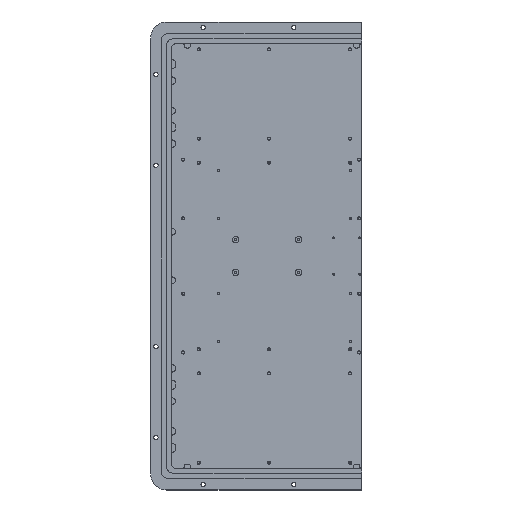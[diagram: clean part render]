
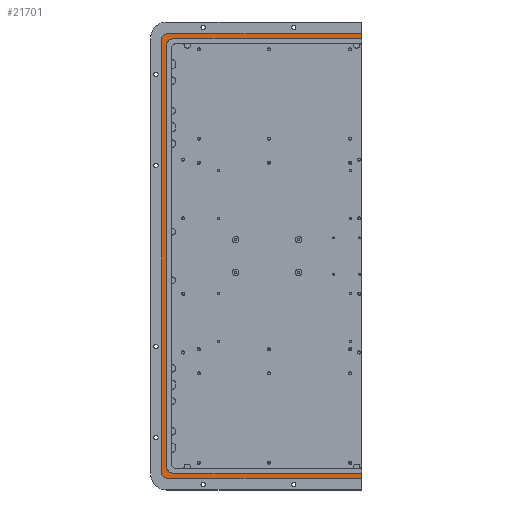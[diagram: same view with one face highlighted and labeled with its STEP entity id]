
A CAD part, top view. The second image highlights one B-rep face of the part: STEP entity #21701.
In plain terms, the highlighted planar face has unit normal (0, 0, 1).
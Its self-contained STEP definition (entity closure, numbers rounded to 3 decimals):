
#379 = DIRECTION ( 'NONE',  ( -1., 0., 0. ) ) ;
#741 = ORIENTED_EDGE ( 'NONE', *, *, #10351, .T. ) ;
#1018 = DIRECTION ( 'NONE',  ( 0., 0., -1. ) ) ;
#1154 = VERTEX_POINT ( 'NONE', #29956 ) ;
#1155 = VERTEX_POINT ( 'NONE', #35698 ) ;
#1367 = DIRECTION ( 'NONE',  ( -1., 0., 0. ) ) ;
#1409 = VERTEX_POINT ( 'NONE', #37080 ) ;
#2222 = ORIENTED_EDGE ( 'NONE', *, *, #21895, .T. ) ;
#3748 = CARTESIAN_POINT ( 'NONE',  ( -110.572, 83.712, -0.2 ) ) ;
#4398 = AXIS2_PLACEMENT_3D ( 'NONE', #23808, #6645, #26729 ) ;
#5046 = LINE ( 'NONE', #12402, #12690 ) ;
#5271 = CARTESIAN_POINT ( 'NONE',  ( -106.272, 79.412, -0.2 ) ) ;
#5381 = CARTESIAN_POINT ( 'NONE',  ( 54.728, -278.888, -0.2 ) ) ;
#5759 = ORIENTED_EDGE ( 'NONE', *, *, #26612, .T. ) ;
#5831 = EDGE_CURVE ( 'NONE', #1155, #31984, #14603, .T. ) ;
#6056 = VECTOR ( 'NONE', #11158, 1000. ) ;
#6090 = DIRECTION ( 'NONE',  ( 0., 0., 1. ) ) ;
#6346 = VECTOR ( 'NONE', #18547, 1000. ) ;
#6480 = CARTESIAN_POINT ( 'NONE',  ( -101.272, 84.412, -0.2 ) ) ;
#6617 = CARTESIAN_POINT ( 'NONE',  ( 54.728, -274.588, -0.2 ) ) ;
#6645 = DIRECTION ( 'NONE',  ( 0., 0., -1. ) ) ;
#6687 = LINE ( 'NONE', #9642, #7618 ) ;
#7330 = DIRECTION ( 'NONE',  ( 0., -1., 0. ) ) ;
#7618 = VECTOR ( 'NONE', #32587, 1000. ) ;
#7696 = CARTESIAN_POINT ( 'NONE',  ( 0., 0., -0.2 ) ) ;
#7998 = VECTOR ( 'NONE', #379, 1000. ) ;
#8832 = CARTESIAN_POINT ( 'NONE',  ( -105.572, -278.888, -0.2 ) ) ;
#9642 = CARTESIAN_POINT ( 'NONE',  ( -106.272, 84.412, -0.2 ) ) ;
#9736 = AXIS2_PLACEMENT_3D ( 'NONE', #11542, #31628, #14445 ) ;
#10351 = EDGE_CURVE ( 'NONE', #21805, #10750, #28222, .T. ) ;
#10458 = DIRECTION ( 'NONE',  ( 0., 0., 1. ) ) ;
#10478 = CIRCLE ( 'NONE', #9736, 5. ) ;
#10572 = PLANE ( 'NONE',  #18129 ) ;
#10750 = VERTEX_POINT ( 'NONE', #6480 ) ;
#10811 = VECTOR ( 'NONE', #7330, 1000. ) ;
#11158 = DIRECTION ( 'NONE',  ( 0., 1., 0. ) ) ;
#11542 = CARTESIAN_POINT ( 'NONE',  ( -105.572, 83.712, -0.2 ) ) ;
#11744 = ORIENTED_EDGE ( 'NONE', *, *, #22091, .T. ) ;
#12034 = AXIS2_PLACEMENT_3D ( 'NONE', #18215, #1018, #21080 ) ;
#12363 = CARTESIAN_POINT ( 'NONE',  ( -101.272, -274.588, -0.2 ) ) ;
#12402 = CARTESIAN_POINT ( 'NONE',  ( 54.728, 84.412, -0.2 ) ) ;
#12548 = VECTOR ( 'NONE', #15631, 1000. ) ;
#12651 = ORIENTED_EDGE ( 'NONE', *, *, #34468, .T. ) ;
#12690 = VECTOR ( 'NONE', #18046, 1000. ) ;
#12714 = AXIS2_PLACEMENT_3D ( 'NONE', #23230, #6090, #26179 ) ;
#12828 = CARTESIAN_POINT ( 'NONE',  ( 54.728, 88.712, -0.2 ) ) ;
#12957 = CARTESIAN_POINT ( 'NONE',  ( -110.572, 75.912, -0.2 ) ) ;
#13436 = DIRECTION ( 'NONE',  ( 1., 0., 0. ) ) ;
#14445 = DIRECTION ( 'NONE',  ( 1., 0., 0. ) ) ;
#14603 = LINE ( 'NONE', #5381, #6056 ) ;
#14703 = CARTESIAN_POINT ( 'NONE',  ( -97.772, -274.588, -0.2 ) ) ;
#15540 = ORIENTED_EDGE ( 'NONE', *, *, #30768, .T. ) ;
#15631 = DIRECTION ( 'NONE',  ( 0., 1., 0. ) ) ;
#15811 = EDGE_CURVE ( 'NONE', #31984, #24734, #30912, .T. ) ;
#18046 = DIRECTION ( 'NONE',  ( 0., 1., 0. ) ) ;
#18129 = AXIS2_PLACEMENT_3D ( 'NONE', #7696, #10458, #13436 ) ;
#18159 = CARTESIAN_POINT ( 'NONE',  ( 54.728, 84.412, -0.2 ) ) ;
#18215 = CARTESIAN_POINT ( 'NONE',  ( -101.272, -269.588, -0.2 ) ) ;
#18406 = LINE ( 'NONE', #12957, #10811 ) ;
#18547 = DIRECTION ( 'NONE',  ( 1., 0., 0. ) ) ;
#18782 = EDGE_CURVE ( 'NONE', #26824, #1154, #27823, .T. ) ;
#19292 = VERTEX_POINT ( 'NONE', #18159 ) ;
#20151 = LINE ( 'NONE', #35734, #12548 ) ;
#20280 = VERTEX_POINT ( 'NONE', #8832 ) ;
#20523 = CIRCLE ( 'NONE', #12714, 5. ) ;
#20785 = ORIENTED_EDGE ( 'NONE', *, *, #15811, .T. ) ;
#21080 = DIRECTION ( 'NONE',  ( 1., 0., 0. ) ) ;
#21167 = CARTESIAN_POINT ( 'NONE',  ( -110.572, -278.888, -0.2 ) ) ;
#21416 = CARTESIAN_POINT ( 'NONE',  ( -110.572, -273.888, -0.2 ) ) ;
#21575 = LINE ( 'NONE', #21167, #6346 ) ;
#21701 = ADVANCED_FACE ( 'NONE', ( #24365 ), #10572, .T. ) ;
#21805 = VERTEX_POINT ( 'NONE', #5271 ) ;
#21895 = EDGE_CURVE ( 'NONE', #1154, #34814, #10478, .T. ) ;
#22091 = EDGE_CURVE ( 'NONE', #19292, #26824, #5046, .T. ) ;
#22865 = ORIENTED_EDGE ( 'NONE', *, *, #5831, .T. ) ;
#23230 = CARTESIAN_POINT ( 'NONE',  ( -105.572, -273.888, -0.2 ) ) ;
#23434 = ORIENTED_EDGE ( 'NONE', *, *, #18782, .T. ) ;
#23469 = CIRCLE ( 'NONE', #12034, 5. ) ;
#23808 = CARTESIAN_POINT ( 'NONE',  ( -101.272, 79.412, -0.2 ) ) ;
#23891 = EDGE_LOOP ( 'NONE', ( #12651, #36276, #15540, #22865, #20785, #5759, #33740, #741, #31881, #11744, #23434, #2222 ) ) ;
#24221 = EDGE_CURVE ( 'NONE', #10750, #19292, #6687, .T. ) ;
#24365 = FACE_OUTER_BOUND ( 'NONE', #23891, .T. ) ;
#24618 = EDGE_CURVE ( 'NONE', #37032, #20280, #20523, .T. ) ;
#24734 = VERTEX_POINT ( 'NONE', #12363 ) ;
#25374 = CARTESIAN_POINT ( 'NONE',  ( 54.728, 88.712, -0.2 ) ) ;
#26179 = DIRECTION ( 'NONE',  ( 1., 0., 0. ) ) ;
#26612 = EDGE_CURVE ( 'NONE', #24734, #1409, #23469, .T. ) ;
#26729 = DIRECTION ( 'NONE',  ( 1., 0., 0. ) ) ;
#26824 = VERTEX_POINT ( 'NONE', #25374 ) ;
#27823 = LINE ( 'NONE', #12828, #34558 ) ;
#28222 = CIRCLE ( 'NONE', #4398, 5. ) ;
#29956 = CARTESIAN_POINT ( 'NONE',  ( -105.572, 88.712, -0.2 ) ) ;
#30768 = EDGE_CURVE ( 'NONE', #20280, #1155, #21575, .T. ) ;
#30912 = LINE ( 'NONE', #14703, #7998 ) ;
#31628 = DIRECTION ( 'NONE',  ( 0., 0., 1. ) ) ;
#31881 = ORIENTED_EDGE ( 'NONE', *, *, #24221, .T. ) ;
#31984 = VERTEX_POINT ( 'NONE', #6617 ) ;
#32033 = EDGE_CURVE ( 'NONE', #1409, #21805, #20151, .T. ) ;
#32587 = DIRECTION ( 'NONE',  ( 1., 0., 0. ) ) ;
#33740 = ORIENTED_EDGE ( 'NONE', *, *, #32033, .T. ) ;
#34468 = EDGE_CURVE ( 'NONE', #34814, #37032, #18406, .T. ) ;
#34558 = VECTOR ( 'NONE', #1367, 1000. ) ;
#34814 = VERTEX_POINT ( 'NONE', #3748 ) ;
#35698 = CARTESIAN_POINT ( 'NONE',  ( 54.728, -278.888, -0.2 ) ) ;
#35734 = CARTESIAN_POINT ( 'NONE',  ( -106.272, -266.088, -0.2 ) ) ;
#36276 = ORIENTED_EDGE ( 'NONE', *, *, #24618, .T. ) ;
#37032 = VERTEX_POINT ( 'NONE', #21416 ) ;
#37080 = CARTESIAN_POINT ( 'NONE',  ( -106.272, -269.588, -0.2 ) ) ;
